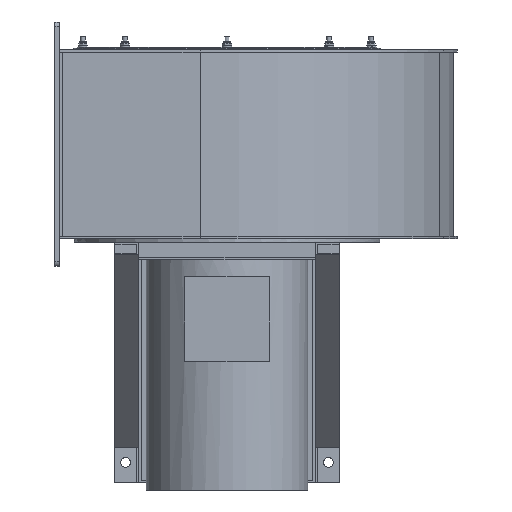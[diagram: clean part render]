
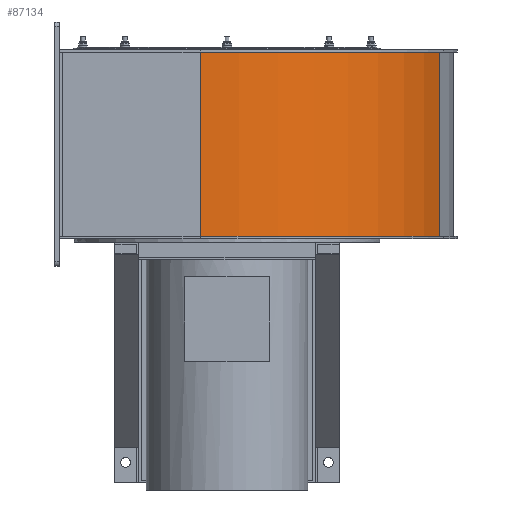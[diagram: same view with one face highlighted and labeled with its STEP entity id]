
A CAD part, front view. The second image highlights one B-rep face of the part: STEP entity #87134.
In plain terms, the highlighted cylindrical face has radius 314.382 mm (diameter 628.764 mm), a partial arc.
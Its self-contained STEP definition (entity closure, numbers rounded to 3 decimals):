
#1064=CYLINDRICAL_SURFACE('',#91375,314.382);
#3118=CIRCLE('',#91376,314.382);
#3119=CIRCLE('',#91377,314.382);
#10622=FACE_OUTER_BOUND('',#16151,.T.);
#16151=EDGE_LOOP('',(#79419,#79420,#79421,#79422));
#26603=LINE('',#137439,#37041);
#26604=LINE('',#137445,#37042);
#37041=VECTOR('',#110205,10.);
#37042=VECTOR('',#110212,10.);
#44736=VERTEX_POINT('',#137437);
#44737=VERTEX_POINT('',#137438);
#44738=VERTEX_POINT('',#137443);
#44739=VERTEX_POINT('',#137444);
#56316=EDGE_CURVE('',#44736,#44737,#26603,.T.);
#56319=EDGE_CURVE('',#44738,#44739,#26604,.T.);
#56320=EDGE_CURVE('',#44736,#44738,#3118,.T.);
#56321=EDGE_CURVE('',#44739,#44737,#3119,.T.);
#79419=ORIENTED_EDGE('',*,*,#56319,.F.);
#79420=ORIENTED_EDGE('',*,*,#56320,.F.);
#79421=ORIENTED_EDGE('',*,*,#56316,.T.);
#79422=ORIENTED_EDGE('',*,*,#56321,.F.);
#87134=ADVANCED_FACE('',(#10622),#1064,.T.);
#91375=AXIS2_PLACEMENT_3D('',#137442,#110210,#110211);
#91376=AXIS2_PLACEMENT_3D('',#137446,#110213,#110214);
#91377=AXIS2_PLACEMENT_3D('',#137447,#110215,#110216);
#110205=DIRECTION('',(0.,0.,1.));
#110210=DIRECTION('center_axis',(0.,0.,
1.));
#110211=DIRECTION('ref_axis',(0.,-1.,
0.));
#110212=DIRECTION('',(0.,0.,1.));
#110213=DIRECTION('center_axis',(0.,0.,
-1.));
#110214=DIRECTION('ref_axis',(0.,-1.,
0.));
#110215=DIRECTION('center_axis',(0.,0.,
1.));
#110216=DIRECTION('ref_axis',(0.,-1.,
0.));
#137437=CARTESIAN_POINT('',(-276.354,445.731,-242.589));
#137438=CARTESIAN_POINT('',(-276.354,445.731,-12.589));
#137439=CARTESIAN_POINT('',(-276.354,445.731,-242.589));
#137442=CARTESIAN_POINT('Origin',(-575.165,543.446,-242.589));
#137443=CARTESIAN_POINT('',(-575.26,229.064,-242.589));
#137444=CARTESIAN_POINT('',(-575.26,229.064,-12.589));
#137445=CARTESIAN_POINT('',(-575.26,229.064,-242.589));
#137446=CARTESIAN_POINT('Origin',(-575.165,543.446,-242.589));
#137447=CARTESIAN_POINT('Origin',(-575.165,543.446,-12.589));
